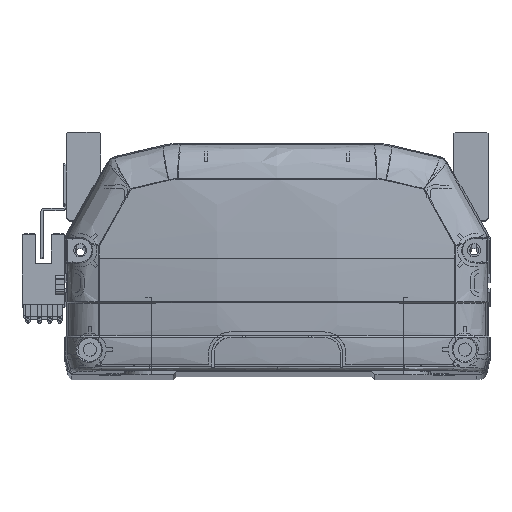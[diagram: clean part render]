
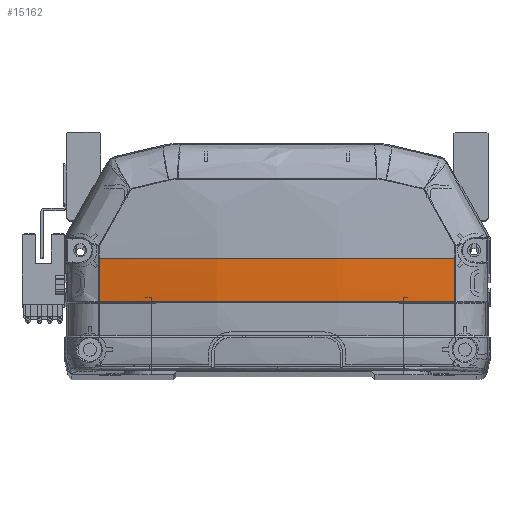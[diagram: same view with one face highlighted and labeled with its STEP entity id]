
A CAD part, top view. The second image highlights one B-rep face of the part: STEP entity #15162.
In plain terms, the highlighted free-form (B-spline) face has degree [3, 3] with [4, 4] control points.
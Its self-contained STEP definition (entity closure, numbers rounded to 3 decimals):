
#1210 = B_SPLINE_CURVE_WITH_KNOTS ( 'NONE', 3,
 ( #14624, #18257, #43391, #36562 ),
 .UNSPECIFIED., .F., .F.,
 ( 4, 4 ),
 ( 0., 1. ),
 .UNSPECIFIED. ) ;
#1591 = VERTEX_POINT ( 'NONE', #46253 ) ;
#4826 = CARTESIAN_POINT ( 'NONE',  ( -19.28, 22.225, -9.565 ) ) ;
#5133 = ORIENTED_EDGE ( 'NONE', *, *, #36397, .T. ) ;
#5139 = CARTESIAN_POINT ( 'NONE',  ( 23.877, 22.225, -8.763 ) ) ;
#5305 = CARTESIAN_POINT ( 'NONE',  ( 19.121, 22.225, -9.064 ) ) ;
#6238 = CARTESIAN_POINT ( 'NONE',  ( -19.295, 31.274, -11.535 ) ) ;
#6709 = CARTESIAN_POINT ( 'NONE',  ( 19.295, 26.549, -11.419 ) ) ;
#8324 = CARTESIAN_POINT ( 'NONE',  ( 47.432, 22.225, -6.377 ) ) ;
#8500 = EDGE_CURVE ( 'NONE', #1591, #36666, #1210, .T. ) ;
#8615 = CARTESIAN_POINT ( 'NONE',  ( 11.954, 22.225, -9.367 ) ) ;
#8779 = CARTESIAN_POINT ( 'NONE',  ( -38.235, 22.225, -7.93 ) ) ;
#9516 = AXIS2_PLACEMENT_3D ( 'NONE', #14928, #22418, #10986 ) ;
#9875 = CARTESIAN_POINT ( 'NONE',  ( -57.335, 36., -5.042 ) ) ;
#10926 = VERTEX_POINT ( 'NONE', #35047 ) ;
#10986 = DIRECTION ( 'NONE',  ( 0., 0., -1. ) ) ;
#11577 = EDGE_CURVE ( 'NONE', #36666, #32885, #33928, .T. ) ;
#12210 = VERTEX_POINT ( 'NONE', #16268 ) ;
#12407 = CARTESIAN_POINT ( 'NONE',  ( 8.363, 22.225, -9.48 ) ) ;
#13355 = CARTESIAN_POINT ( 'NONE',  ( 57.335, 22.148, -4.7 ) ) ;
#13808 = CARTESIAN_POINT ( 'NONE',  ( 19.295, 36., -11.535 ) ) ;
#14624 = CARTESIAN_POINT ( 'NONE',  ( 56.661, 22.225, -4.818 ) ) ;
#14928 = CARTESIAN_POINT ( 'NONE',  ( 0., 36., 330.833 ) ) ;
#15162 = ADVANCED_FACE ( 'NONE', ( #25786 ), #16309, .T. ) ;
#16225 = ORIENTED_EDGE ( 'NONE', *, *, #8500, .F. ) ;
#16268 = CARTESIAN_POINT ( 'NONE',  ( -56.661, 22.225, -4.818 ) ) ;
#16309 =( BOUNDED_SURFACE ( )  B_SPLINE_SURFACE ( 3, 3, ( 
 ( #13355, #42580, #20813, #31656 ),
 ( #24322, #6709, #27987, #13808 ),
 ( #39088, #46058, #6238, #35129 ),
 ( #46223, #31491, #16830, #9875 ) ),
 .UNSPECIFIED., .F., .F., .F. ) 
 B_SPLINE_SURFACE_WITH_KNOTS ( ( 4, 4 ),
 ( 4, 4 ),
 ( 0., 1. ),
 ( 0., 1. ),
 .UNSPECIFIED. ) 
 GEOMETRIC_REPRESENTATION_ITEM ( )  RATIONAL_B_SPLINE_SURFACE ( (
 ( 1., 1., 1., 1.),
 ( 0.99, 0.99, 0.99, 0.99),
 ( 0.99, 0.99, 0.99, 0.99),
 ( 1., 1., 1., 1.) ) ) 
 REPRESENTATION_ITEM ( '' )  SURFACE ( )  );
#16830 = CARTESIAN_POINT ( 'NONE',  ( -57.335, 31.38, -5.042 ) ) ;
#18257 = CARTESIAN_POINT ( 'NONE',  ( 56.652, 26.806, -5.044 ) ) ;
#20813 = CARTESIAN_POINT ( 'NONE',  ( 57.335, 31.38, -5.042 ) ) ;
#21422 = EDGE_CURVE ( 'NONE', #10926, #12210, #36915, .T. ) ;
#22418 = DIRECTION ( 'NONE',  ( 0., 1., 0. ) ) ;
#23063 = CARTESIAN_POINT ( 'NONE',  ( 56.661, 22.225, -4.818 ) ) ;
#24322 = CARTESIAN_POINT ( 'NONE',  ( 19.295, 21.828, -11.186 ) ) ;
#25786 = FACE_OUTER_BOUND ( 'NONE', #45001, .T. ) ;
#25789 = CARTESIAN_POINT ( 'NONE',  ( -56.661, 22.225, -4.818 ) ) ;
#26065 = DIRECTION ( 'NONE',  ( 0., 0., -1. ) ) ;
#27056 = B_SPLINE_CURVE_WITH_KNOTS ( 'NONE', 3,
 ( #23063, #8324, #44498, #5139, #5305, #8615, #12407, #33559, #37194, #34179, #4826, #8779, #30704 ),
 .UNSPECIFIED., .F., .F.,
 ( 4, 2, 2, 1, 2, 2, 4 ),
 ( 0., 0.25, 0.375, 0.438, 0.469, 0.5, 1. ),
 .UNSPECIFIED. ) ;
#27500 = EDGE_CURVE ( 'NONE', #32885, #10926, #28023, .T. ) ;
#27690 = AXIS2_PLACEMENT_3D ( 'NONE', #29890, #26065, #37001 ) ;
#27987 = CARTESIAN_POINT ( 'NONE',  ( 19.295, 31.274, -11.535 ) ) ;
#28023 = CIRCLE ( 'NONE', #9516, 340.733 ) ;
#29300 = CARTESIAN_POINT ( 'NONE',  ( -56.647, 36., -5.158 ) ) ;
#29609 = CARTESIAN_POINT ( 'NONE',  ( -56.652, 26.814, -5.045 ) ) ;
#29890 = CARTESIAN_POINT ( 'NONE',  ( 6452.613, 35.969, -5.158 ) ) ;
#30241 = ORIENTED_EDGE ( 'NONE', *, *, #21422, .F. ) ;
#30704 = CARTESIAN_POINT ( 'NONE',  ( -56.661, 22.225, -4.818 ) ) ;
#31491 = CARTESIAN_POINT ( 'NONE',  ( -57.335, 26.762, -4.928 ) ) ;
#31656 = CARTESIAN_POINT ( 'NONE',  ( 57.335, 36., -5.042 ) ) ;
#32885 = VERTEX_POINT ( 'NONE', #39123 ) ;
#33559 = CARTESIAN_POINT ( 'NONE',  ( 4.761, 22.225, -9.537 ) ) ;
#33928 = CIRCLE ( 'NONE', #27690, 6395.966 ) ;
#34179 = CARTESIAN_POINT ( 'NONE',  ( 1.152, 22.225, -9.568 ) ) ;
#34477 = ORIENTED_EDGE ( 'NONE', *, *, #11577, .F. ) ;
#35047 = CARTESIAN_POINT ( 'NONE',  ( -56.647, 36., -5.158 ) ) ;
#35129 = CARTESIAN_POINT ( 'NONE',  ( -19.295, 36., -11.535 ) ) ;
#36397 = EDGE_CURVE ( 'NONE', #1591, #12210, #27056, .T. ) ;
#36562 = CARTESIAN_POINT ( 'NONE',  ( 56.647, 35.969, -5.158 ) ) ;
#36666 = VERTEX_POINT ( 'NONE', #43674 ) ;
#36915 = B_SPLINE_CURVE_WITH_KNOTS ( 'NONE', 3,
 ( #29300, #43571, #29609, #25789 ),
 .UNSPECIFIED., .F., .F.,
 ( 4, 4 ),
 ( 0., 1. ),
 .UNSPECIFIED. ) ;
#37001 = DIRECTION ( 'NONE',  ( -1., 0., 0. ) ) ;
#37194 = CARTESIAN_POINT ( 'NONE',  ( 2.357, 22.225, -9.562 ) ) ;
#39088 = CARTESIAN_POINT ( 'NONE',  ( -19.295, 21.828, -11.186 ) ) ;
#39123 = CARTESIAN_POINT ( 'NONE',  ( 56.647, 36., -5.158 ) ) ;
#42580 = CARTESIAN_POINT ( 'NONE',  ( 57.335, 26.762, -4.928 ) ) ;
#43391 = CARTESIAN_POINT ( 'NONE',  ( 56.647, 31.387, -5.158 ) ) ;
#43553 = ORIENTED_EDGE ( 'NONE', *, *, #27500, .F. ) ;
#43571 = CARTESIAN_POINT ( 'NONE',  ( -56.647, 31.405, -5.158 ) ) ;
#43674 = CARTESIAN_POINT ( 'NONE',  ( 56.647, 35.969, -5.158 ) ) ;
#44498 = CARTESIAN_POINT ( 'NONE',  ( 38.071, 22.225, -7.566 ) ) ;
#45001 = EDGE_LOOP ( 'NONE', ( #43553, #34477, #16225, #5133, #30241 ) ) ;
#46058 = CARTESIAN_POINT ( 'NONE',  ( -19.295, 26.549, -11.419 ) ) ;
#46223 = CARTESIAN_POINT ( 'NONE',  ( -57.335, 22.148, -4.7 ) ) ;
#46253 = CARTESIAN_POINT ( 'NONE',  ( 56.661, 22.225, -4.818 ) ) ;
